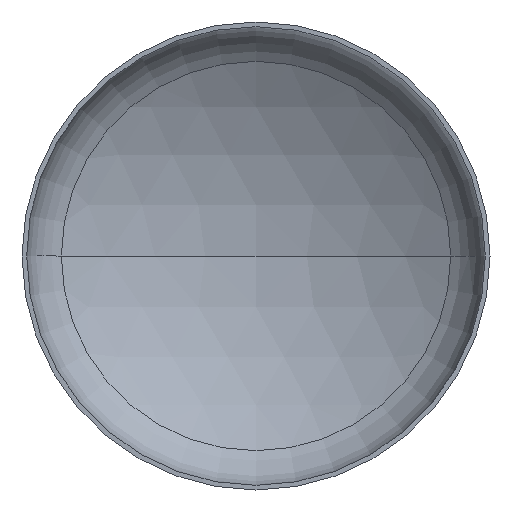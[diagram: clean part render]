
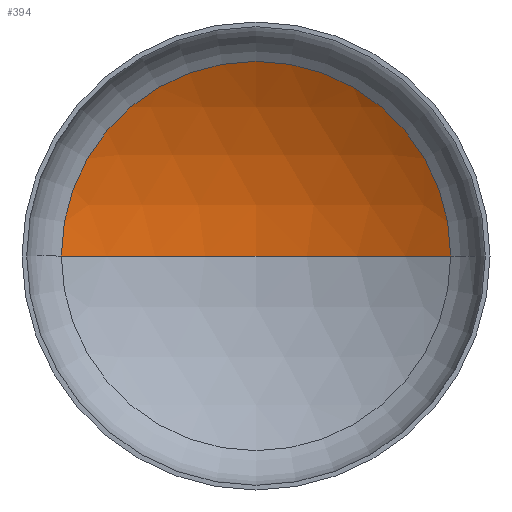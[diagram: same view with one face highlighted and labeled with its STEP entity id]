
A CAD part, front view. The second image highlights one B-rep face of the part: STEP entity #394.
In plain terms, the highlighted spherical face has radius 2880 mm.
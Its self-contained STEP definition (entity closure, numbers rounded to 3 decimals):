
#5 = AXIS2_PLACEMENT_3D ( 'NONE', #339, #66, #112 ) ;
#7 = AXIS2_PLACEMENT_3D ( 'NONE', #270, #384, #298 ) ;
#9 = SPHERICAL_SURFACE ( 'NONE', #364, 2880. ) ;
#23 = AXIS2_PLACEMENT_3D ( 'NONE', #135, #139, #163 ) ;
#31 = EDGE_LOOP ( 'NONE', ( #125, #62, #45 ) ) ;
#45 = ORIENTED_EDGE ( 'NONE', *, *, #359, .T. ) ;
#53 = CARTESIAN_POINT ( 'NONE',  ( 0., 1004.063, 0. ) ) ;
#62 = ORIENTED_EDGE ( 'NONE', *, *, #360, .T. ) ;
#65 = VERTEX_POINT ( 'NONE', #219 ) ;
#66 = DIRECTION ( 'NONE',  ( 0., 0., -1. ) ) ;
#67 = VERTEX_POINT ( 'NONE', #223 ) ;
#78 = CIRCLE ( 'NONE', #5, 2880. ) ;
#86 = VERTEX_POINT ( 'NONE', #53 ) ;
#112 = DIRECTION ( 'NONE',  ( -1., 0., 0. ) ) ;
#125 = ORIENTED_EDGE ( 'NONE', *, *, #347, .F. ) ;
#135 = CARTESIAN_POINT ( 'NONE',  ( 0., -1875.937, 0. ) ) ;
#139 = DIRECTION ( 'NONE',  ( 0., 0., 1. ) ) ;
#163 = DIRECTION ( 'NONE',  ( 1., 0., 0. ) ) ;
#184 = DIRECTION ( 'NONE',  ( -1., 0., 0. ) ) ;
#204 = DIRECTION ( 'NONE',  ( 0., 0., -1. ) ) ;
#219 = CARTESIAN_POINT ( 'NONE',  ( -1497.6, 584.062, 0. ) ) ;
#223 = CARTESIAN_POINT ( 'NONE',  ( 1497.6, 584.062, 0. ) ) ;
#254 = CIRCLE ( 'NONE', #7, 1497.6 ) ;
#270 = CARTESIAN_POINT ( 'NONE',  ( 0., 584.062, 0. ) ) ;
#298 = DIRECTION ( 'NONE',  ( 1., 0., 0. ) ) ;
#307 = FACE_OUTER_BOUND ( 'NONE', #31, .T. ) ;
#321 = CIRCLE ( 'NONE', #23, 2880. ) ;
#339 = CARTESIAN_POINT ( 'NONE',  ( 0., -1875.937, 0. ) ) ;
#347 = EDGE_CURVE ( 'NONE', #86, #65, #321, .T. ) ;
#359 = EDGE_CURVE ( 'NONE', #67, #65, #254, .T. ) ;
#360 = EDGE_CURVE ( 'NONE', #86, #67, #78, .T. ) ;
#364 = AXIS2_PLACEMENT_3D ( 'NONE', #391, #204, #184 ) ;
#384 = DIRECTION ( 'NONE',  ( 0., -1., 0. ) ) ;
#391 = CARTESIAN_POINT ( 'NONE',  ( 0., -1875.937, 0. ) ) ;
#394 = ADVANCED_FACE ( 'NONE', ( #307 ), #9, .F. ) ;
